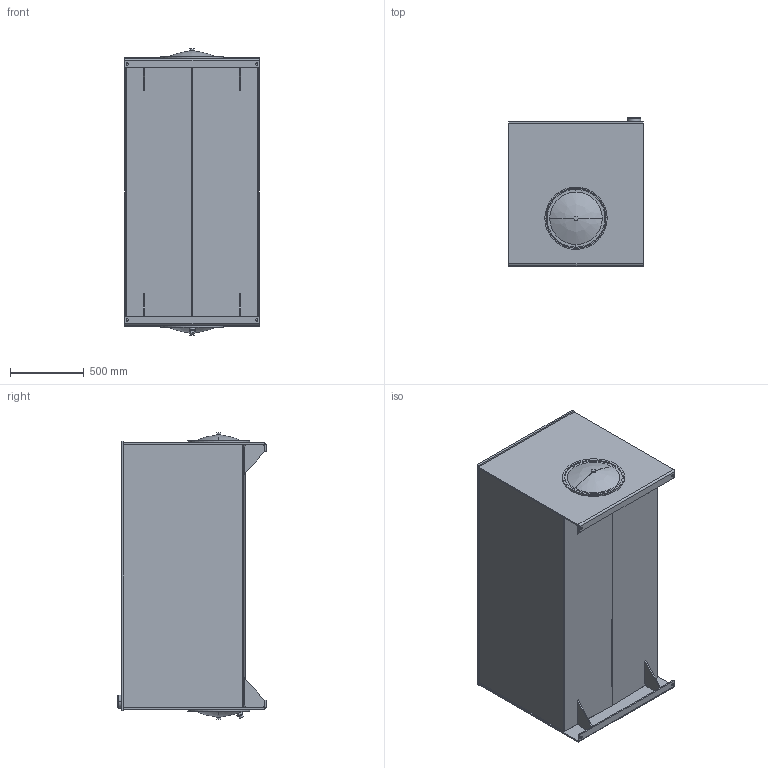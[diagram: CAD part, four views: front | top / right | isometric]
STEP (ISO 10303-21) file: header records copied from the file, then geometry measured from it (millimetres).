
FILE_DESCRIPTION (( 'STEP AP214' ), '1' );
FILE_NAME ('T1-300.STEP', '2021-04-09T11:45:23', ( '' ), ( '' ), 'SwSTEP 2.0', 'SolidWorks 2013', '' );
FILE_SCHEMA (( 'AUTOMOTIVE_DESIGN' ));
Length unit declared in the file: inch
Products named in the file (17): 16.00 END COVER; 0.625 - 11 BAFFLE NUT; TL-EC-16; 0.625 - 11 HEX BOLT; FILLER RISER; T1-300-GST; T1-300-EB; DRAIN; CRUSH WASHER; T1-300-EA; TL-ECD-16; T1-300; T1-300-LD; T1-300-BFL; 16.00 END COVER WITH DRAIN; T1-300-BDYA; 16.00 GASKET
Assembly tree (23 placements, depth 3):
  T1-300
    T1-300-LD
    T1-300-BDYA
    T1-300-EA
    T1-300-EB
    T1-300-BFL
    T1-300-GST  x4
    FILLER RISER
    TL-EC-16
      16.00 END COVER
      16.00 GASKET
      CRUSH WASHER
      0.625 - 11 HEX BOLT
      0.625 - 11 BAFFLE NUT
    TL-ECD-16
      16.00 GASKET
      CRUSH WASHER
      0.625 - 11 HEX BOLT
      0.625 - 11 BAFFLE NUT
      16.00 END COVER WITH DRAIN
      DRAIN
Bounding box: 914.4 x 1003.17 x 1938.01 mm (x, y, z)
Volume: 67456659.7 mm3; surface area: 19698524.4 mm2
Topology: 22 solids, 22 shells, 294 faces, 676 edges, 434 vertices
Faces by surface type: plane 165, cylinder 109, cone 10, bspline 8, torus 2
Entity records: 8527 total; most frequent: CARTESIAN_POINT 1469, DIRECTION 1242, ORIENTED_EDGE 1076, EDGE_CURVE 538, AXIS2_PLACEMENT_3D 465, VERTEX_POINT 342, LINE 312, VECTOR 312
